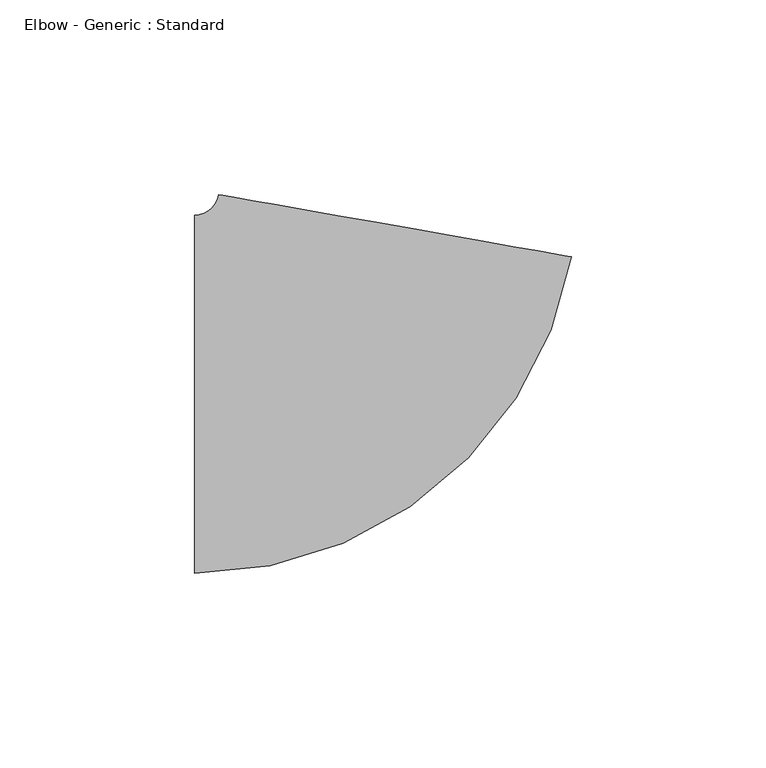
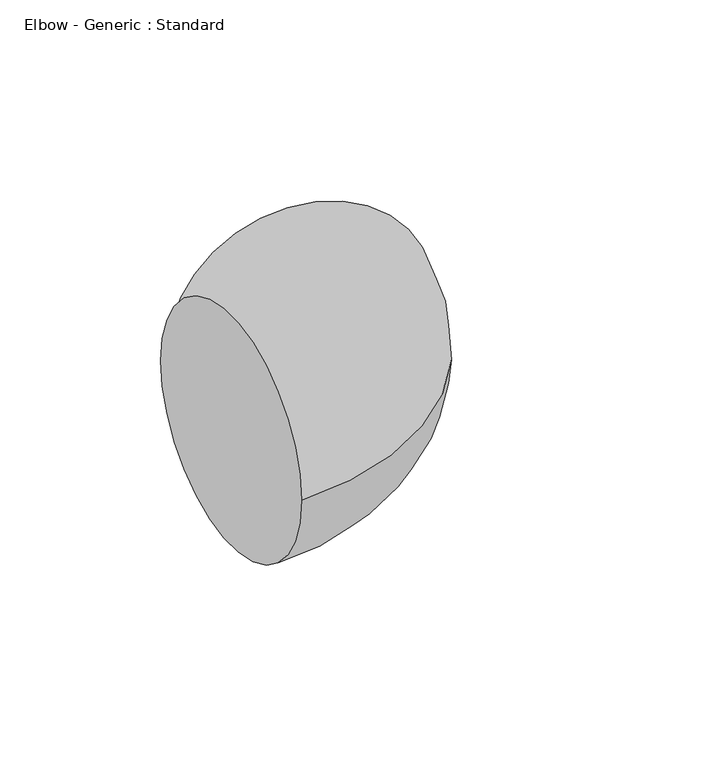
"""IFC4 building model written with IfcOpenShell, lengths in millimetres: pipe fitting geometry, Elbow - Generic : Standard."""

from ifc_helpers import new_model, si_unit, point, frame, origin, place, context, project, spatial, circle_curve, ellipse_curve, trimmed, source, transform, mapped, element, save
from ifc_brep_helpers import plane_surface, revolved_surface, advanced_brep


def elbow_generic_standard_4713954c(model_context):
    return source(origin(), model_context, "Body", "AdvancedBrep", [
        advanced_brep(
        [(-43.9583319, -46.0375, 0.0), (-43.9583319, 46.0375, 0.0), (52.9713712, 35.2961781, 0.0), (-37.7048027, 51.2848341, 0.0)],
        [
            (0, 1, circle_curve(frame((-43.9583319, 0.0, 0.0), z_axis=(-1.0, 0.0, 0.0), x_axis=(0.0, 1.0, 0.0)), 46.0375)),
            (1, 0, circle_curve(frame((-43.9583319, 0.0, 0.0), z_axis=(-1.0, 0.0, 0.0), x_axis=(0.0, 1.0, 0.0)), 46.0375)),
            (2, 3, circle_curve(frame((7.6332842, 43.2905061, 0.0), z_axis=(0.17364817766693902, 0.9848077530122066, 0.0), x_axis=(-0.9848077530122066, 0.17364817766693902, 0.0)), 46.0375)),
            (3, 2, circle_curve(frame((7.6332842, 43.2905061, 0.0), z_axis=(0.17364817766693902, 0.9848077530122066, 0.0), x_axis=(-0.9848077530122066, 0.17364817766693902, 0.0)), 46.0375)),
            (3, 1, circle_curve(frame((-43.9583319, 52.3875, 0.0), z_axis=(0.0, 0.0, -1.0), x_axis=(0.0, -1.0, 0.0)), 6.35)),
            (0, 2, circle_curve(frame((-43.9583319, 52.3875, 0.0), z_axis=(0.0, 0.0, 1.0), x_axis=(0.0, -1.0, 0.0)), 98.425)),
        ],
        [
            plane_surface(frame((-43.9583319, 0.0, 0.0), z_axis=(-1.0, 0.0, 0.0), x_axis=(0.0, 0.0, 1.0))),
            plane_surface(frame((7.6332842, 43.2905061, 0.0), z_axis=(0.1736481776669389, 0.9848077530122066, 0.0), x_axis=(0.0, 0.0, 1.0))),
            revolved_surface(trimmed(ellipse_curve(frame((-43.9583319, 0.0, 0.0), z_axis=(-1.0, 0.0, 0.0), x_axis=(0.0, 1.0, 0.0)), 46.0375, 46.0375), [point((-43.9583319, -46.0375, 0.0))], [point((-43.9583319, 46.0375, 0.0))], True, "CARTESIAN"), (-43.9583319, 52.3875, 0.0), (0.0, 0.0, 1.0)),
            revolved_surface(trimmed(ellipse_curve(frame((-43.9583319, 0.0, 0.0), z_axis=(-1.0, 0.0, 0.0), x_axis=(0.0, 1.0, 0.0)), 46.0375, 46.0375), [point((-43.9583319, 46.0375, 0.0))], [point((-43.9583319, -46.0375, 0.0))], True, "CARTESIAN"), (-43.9583319, 52.3875, 0.0), (0.0, 0.0, 1.0)),
        ],
        [
            (0, [[1, 2]]),
            (1, [[3, 4]]),
            (2, [[5, -1, 6, -4]]),
            (3, [[-6, -2, -5, -3]]),
        ],
    ),
    ])


if __name__ == "__main__":
    model = new_model("IFC4")
    model_context = context("Model", 3, world=origin())
    ifc_project = project(units=[si_unit("LENGTHUNIT", "METRE", prefix="MILLI")], contexts=[model_context])
    site = spatial("IfcSite", under=ifc_project)
    building = spatial("IfcBuilding", under=site)
    placement = place(None, origin())
    elbow_generic_standard_shape = elbow_generic_standard_4713954c(model_context)
    element("IfcPipeFitting", 1, ObjectType="Elbow - Generic : Standard", at=placement, inside=building, context=model_context, shape_type="MappedRepresentation", body=[
        mapped(elbow_generic_standard_shape, transform((0.0, 0.0, 0.0), x_axis=(1.0, 0.0, 0.0), y_axis=(0.0, 1.0, 0.0), z_axis=(0.0, 0.0, 1.0))),
    ])
    save(model, "model.ifc")
